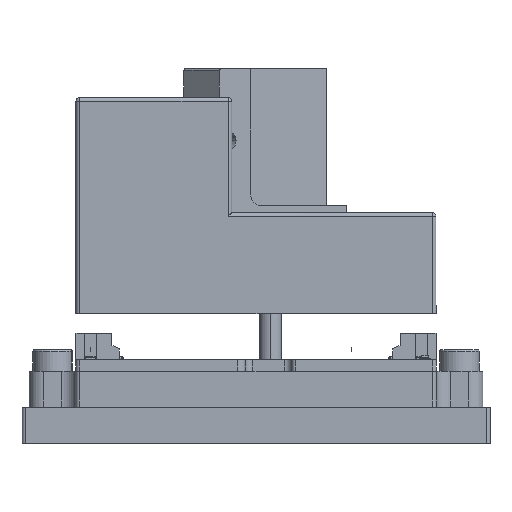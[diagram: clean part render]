
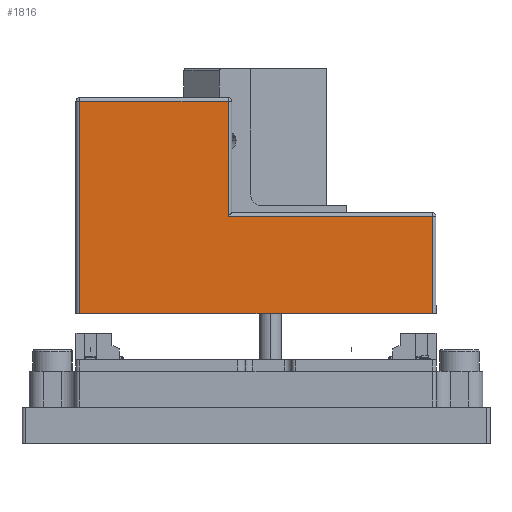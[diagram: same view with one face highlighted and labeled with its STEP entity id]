
A CAD part, left-side view. The second image highlights one B-rep face of the part: STEP entity #1816.
In plain terms, the highlighted planar face has unit normal (-1, 0, 0).
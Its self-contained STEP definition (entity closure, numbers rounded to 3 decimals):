
#1816 = ADVANCED_FACE ( 'NONE', ( #62631 ), #41741, .F. ) ;
#2068 = DIRECTION ( 'NONE',  ( 0., 0., -1. ) ) ;
#2392 = CARTESIAN_POINT ( 'NONE',  ( -123.282, -4.326, 52.086 ) ) ;
#3280 = DIRECTION ( 'NONE',  ( 0., 1., 0. ) ) ;
#3471 = ORIENTED_EDGE ( 'NONE', *, *, #7632, .T. ) ;
#3517 = LINE ( 'NONE', #50559, #27041 ) ;
#7249 = ORIENTED_EDGE ( 'NONE', *, *, #10693, .T. ) ;
#7632 = EDGE_CURVE ( 'NONE', #47704, #47708, #3517, .T. ) ;
#9736 = LINE ( 'NONE', #61851, #37439 ) ;
#9777 = CARTESIAN_POINT ( 'NONE',  ( -123.282, -4.826, 81.586 ) ) ;
#10693 = EDGE_CURVE ( 'NONE', #30069, #64558, #39171, .T. ) ;
#12452 = EDGE_CURVE ( 'NONE', #47283, #47704, #9736, .T. ) ;
#13337 = AXIS2_PLACEMENT_3D ( 'NONE', #67156, #46288, #25880 ) ;
#18757 = LINE ( 'NONE', #39627, #65770 ) ;
#19712 = CARTESIAN_POINT ( 'NONE',  ( -123.282, 24.038, 63.086 ) ) ;
#20268 = EDGE_CURVE ( 'NONE', #47708, #30069, #62435, .T. ) ;
#20781 = CARTESIAN_POINT ( 'NONE',  ( -123.282, -4.326, 65.586 ) ) ;
#23072 = CARTESIAN_POINT ( 'NONE',  ( -123.282, 44.674, 63.086 ) ) ;
#25880 = DIRECTION ( 'NONE',  ( 0., 0., -1. ) ) ;
#26306 = CARTESIAN_POINT ( 'NONE',  ( -123.282, 24.038, 81.586 ) ) ;
#26430 = EDGE_CURVE ( 'NONE', #64558, #62290, #43938, .T. ) ;
#27041 = VECTOR ( 'NONE', #29607, 1000. ) ;
#29607 = DIRECTION ( 'NONE',  ( 0., 1., 0. ) ) ;
#30069 = VERTEX_POINT ( 'NONE', #26306 ) ;
#32486 = ORIENTED_EDGE ( 'NONE', *, *, #39142, .F. ) ;
#35547 = VECTOR ( 'NONE', #40247, 1000. ) ;
#37284 = VECTOR ( 'NONE', #2068, 1000. ) ;
#37439 = VECTOR ( 'NONE', #46136, 1000. ) ;
#39142 = EDGE_CURVE ( 'NONE', #47283, #62290, #18757, .T. ) ;
#39171 = LINE ( 'NONE', #9777, #65847 ) ;
#39627 = CARTESIAN_POINT ( 'NONE',  ( -123.282, -4.826, 52.086 ) ) ;
#40041 = ORIENTED_EDGE ( 'NONE', *, *, #12452, .T. ) ;
#40247 = DIRECTION ( 'NONE',  ( 0., 0., 1. ) ) ;
#41741 = PLANE ( 'NONE',  #13337 ) ;
#43433 = EDGE_LOOP ( 'NONE', ( #7249, #61517, #32486, #40041, #3471, #64005 ) ) ;
#43938 = LINE ( 'NONE', #23072, #37284 ) ;
#46136 = DIRECTION ( 'NONE',  ( 0., 0., 1. ) ) ;
#46288 = DIRECTION ( 'NONE',  ( 1., 0., 0. ) ) ;
#47283 = VERTEX_POINT ( 'NONE', #2392 ) ;
#47704 = VERTEX_POINT ( 'NONE', #20781 ) ;
#47708 = VERTEX_POINT ( 'NONE', #62526 ) ;
#50559 = CARTESIAN_POINT ( 'NONE',  ( -123.282, 23.538, 65.586 ) ) ;
#52756 = CARTESIAN_POINT ( 'NONE',  ( -123.282, 44.674, 52.086 ) ) ;
#54588 = CARTESIAN_POINT ( 'NONE',  ( -123.282, 44.674, 81.586 ) ) ;
#60481 = DIRECTION ( 'NONE',  ( 0., 1., 0. ) ) ;
#61517 = ORIENTED_EDGE ( 'NONE', *, *, #26430, .T. ) ;
#61851 = CARTESIAN_POINT ( 'NONE',  ( -123.282, -4.326, 63.086 ) ) ;
#62290 = VERTEX_POINT ( 'NONE', #52756 ) ;
#62435 = LINE ( 'NONE', #19712, #35547 ) ;
#62526 = CARTESIAN_POINT ( 'NONE',  ( -123.282, 24.038, 65.586 ) ) ;
#62631 = FACE_OUTER_BOUND ( 'NONE', #43433, .T. ) ;
#64005 = ORIENTED_EDGE ( 'NONE', *, *, #20268, .T. ) ;
#64558 = VERTEX_POINT ( 'NONE', #54588 ) ;
#65770 = VECTOR ( 'NONE', #60481, 1000. ) ;
#65847 = VECTOR ( 'NONE', #3280, 1000. ) ;
#67156 = CARTESIAN_POINT ( 'NONE',  ( -123.282, -4.826, 63.086 ) ) ;
